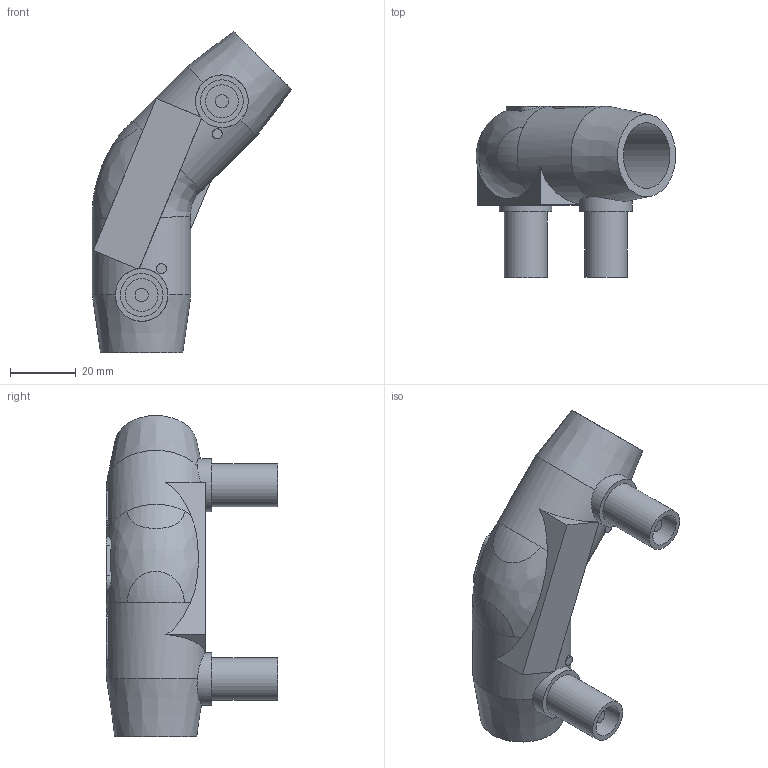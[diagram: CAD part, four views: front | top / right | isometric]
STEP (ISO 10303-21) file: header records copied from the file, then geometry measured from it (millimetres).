
FILE_DESCRIPTION(/* description */ ('Unknown'),/* implementation_level */ '2;1');
FILE_NAME(/* name */ 'GE4P020C',/* time_stamp */ '2020-12-02T08:53:07+01:00',/* author */ ('Unknown'),/* organization */ ('Unknown'),/* preprocessor_version */ 'ST-DEVELOPER v16.7',/* originating_system */ 'Solid Edge',/* authorisation */ 'Unknown');
FILE_SCHEMA (('AUTOMOTIVE_DESIGN {1 0 10303 214 3 1 1}'));
Length unit declared in the file: millimetre
Products named in the file (1): GE4P020C
Bounding box: 60.6 x 52 x 97.61 mm (x, y, z)
Volume: 44233.7 mm3; surface area: 19851.7 mm2
Topology: 1 solids, 1 shells, 76 faces, 179 edges, 118 vertices
Faces by surface type: plane 37, cylinder 32, torus 3, bspline 2, cone 2
Full cylindrical faces by diameter (mm): 3 x2, 4 x2, 10 x2, 13 x2, 16 x2, 17.5 x2, 20 x2
Entity records: 2971 total; most frequent: CARTESIAN_POINT 1341, ORIENTED_EDGE 314, DIRECTION 312, EDGE_CURVE 157, AXIS2_PLACEMENT_3D 132, VERTEX_POINT 112, EDGE_LOOP 107, FACE_BOUND 107
